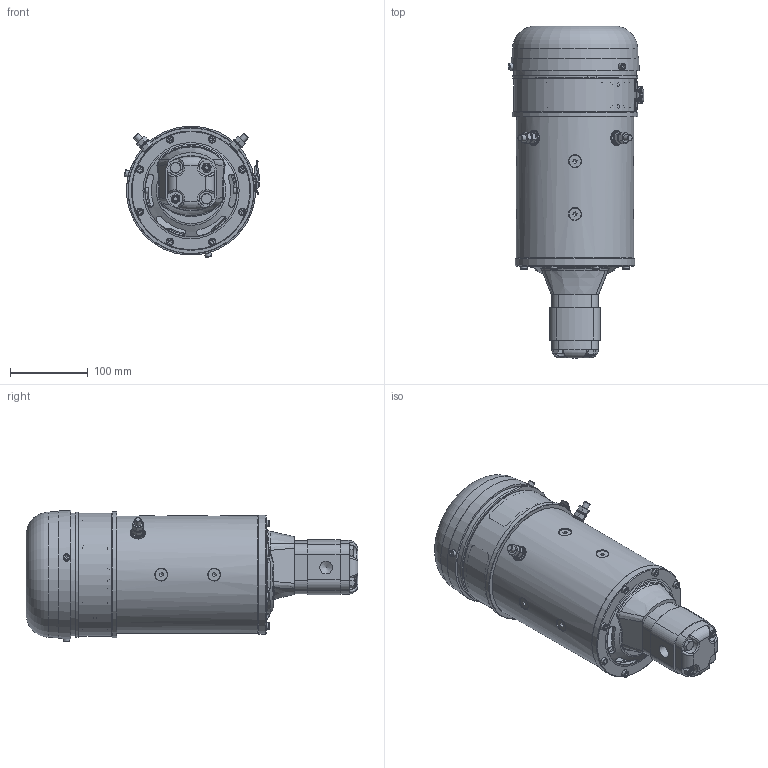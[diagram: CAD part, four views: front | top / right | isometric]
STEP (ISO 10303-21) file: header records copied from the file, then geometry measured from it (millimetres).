
FILE_DESCRIPTION(/* description */ (''),/* implementation_level */ '2;1');
FILE_NAME(/* name */ 'Z:\SITO WEB 2023\Elettropompe\Elettropompe DC\D.151 mm\MP151.GR1.VE1.stp',/* time_stamp */ '2023-09-19T08:55:55+02:00',/* author */ ('cad3'),/* organization */ (''),/* preprocessor_version */ 'ST-DEVELOPER v18.1',/* originating_system */ 'Autodesk Inventor 2022',/* authorisation */ '');
FILE_SCHEMA (('AUTOMOTIVE_DESIGN { 1 0 10303 214 3 1 1 }'));
Products named in the file (1): MP151.GR1.VE1
Bounding box: 174.69 x 426.9 x 168.78 mm (x, y, z)
Volume: 1810018 mm3; surface area: 488141.8 mm2
Topology: 16 solids, 36 shells, 1883 faces, 4859 edges, 3091 vertices
Faces by surface type: plane 950, cylinder 456, cone 177, bspline 163, torus 132, sphere 5
Full cylindrical faces by diameter (mm): 2.1 x5, 2.4 x1, 2.5 x6, 4 x2, 4.134 x7, 4.48 x3, 5 x11, 5.5 x23, 6 x4, 6.647 x2, 8 x16, 8.2 x2, 8.4 x4, 8.5 x27, 9.3 x1, 9.5 x8, 9.9 x2, 11 x4, 11.5 x2, 11.6 x2, 12.376 x1, 13 x2, 15.57 x8, 16.376 x1, 16.5 x8, 17 x2, 20 x2, 24 x1, 25 x1, 28.8 x1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
Entity records: 68773 total; most frequent: CARTESIAN_POINT 21732, ORIENTED_EDGE 9686, DIRECTION 9147, EDGE_CURVE 4843, AXIS2_PLACEMENT_3D 3498, VERTEX_POINT 3098, LINE 2151, VECTOR 2151
